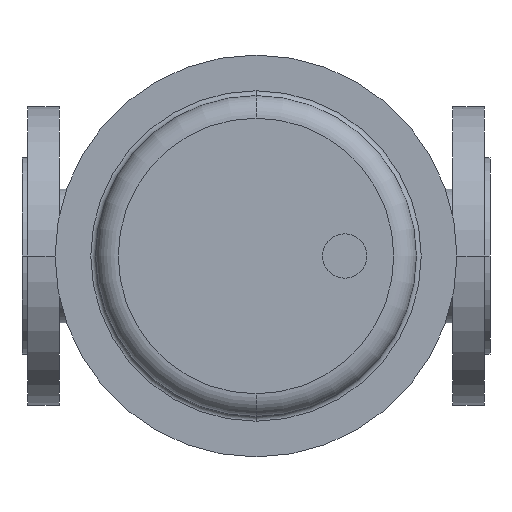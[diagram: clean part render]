
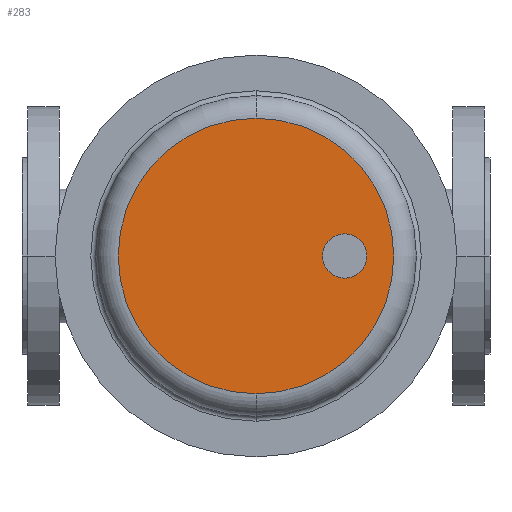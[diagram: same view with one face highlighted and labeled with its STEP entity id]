
A CAD part, front view. The second image highlights one B-rep face of the part: STEP entity #283.
In plain terms, the highlighted planar face has unit normal (0, -1, 0).
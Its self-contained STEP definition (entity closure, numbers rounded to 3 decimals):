
#283 = ADVANCED_FACE( '', ( #652, #653 ), #654, .T. );
#652 = FACE_BOUND( '', #1037, .T. );
#653 = FACE_OUTER_BOUND( '', #1038, .T. );
#654 = PLANE( '', #1039 );
#1037 = EDGE_LOOP( '', ( #2305, #2306 ) );
#1038 = EDGE_LOOP( '', ( #2307, #2308, #2309 ) );
#1039 = AXIS2_PLACEMENT_3D( '', #2310, #2311, #2312 );
#2305 = ORIENTED_EDGE( '', *, *, #2802, .T. );
#2306 = ORIENTED_EDGE( '', *, *, #2804, .T. );
#2307 = ORIENTED_EDGE( '', *, *, #2796, .F. );
#2308 = ORIENTED_EDGE( '', *, *, #2795, .F. );
#2309 = ORIENTED_EDGE( '', *, *, #2805, .F. );
#2310 = CARTESIAN_POINT( '', ( 187.688, -498., 0. ) );
#2311 = DIRECTION( '', ( 0., -1., 0. ) );
#2312 = DIRECTION( '', ( -1., 0., 0. ) );
#2795 = EDGE_CURVE( '', #3460, #3463, #3464, .T. );
#2796 = EDGE_CURVE( '', #3463, #3465, #3466, .T. );
#2802 = EDGE_CURVE( '', #3470, #3474, #3476, .T. );
#2804 = EDGE_CURVE( '', #3474, #3470, #3478, .T. );
#2805 = EDGE_CURVE( '', #3465, #3460, #3479, .T. );
#3460 = VERTEX_POINT( '', #4799 );
#3463 = VERTEX_POINT( '', #4802 );
#3464 = CIRCLE( '', #4803, 85.375 );
#3465 = VERTEX_POINT( '', #4804 );
#3466 = CIRCLE( '', #4805, 85.375 );
#3470 = VERTEX_POINT( '', #4809 );
#3474 = VERTEX_POINT( '', #4814 );
#3476 = CIRCLE( '', #4817, 13.75 );
#3478 = CIRCLE( '', #4819, 13.75 );
#3479 = CIRCLE( '', #4820, 85.375 );
#4799 = CARTESIAN_POINT( '', ( 145., -498., 85.375 ) );
#4802 = CARTESIAN_POINT( '', ( 230.375, -498., 0. ) );
#4803 = AXIS2_PLACEMENT_3D( '', #5713, #5714, #5715 );
#4804 = CARTESIAN_POINT( '', ( 145., -498., -85.375 ) );
#4805 = AXIS2_PLACEMENT_3D( '', #5716, #5717, #5718 );
#4809 = CARTESIAN_POINT( '', ( 213.75, -498., 0. ) );
#4814 = CARTESIAN_POINT( '', ( 186.25, -498., 0. ) );
#4817 = AXIS2_PLACEMENT_3D( '', #5730, #5731, #5732 );
#4819 = AXIS2_PLACEMENT_3D( '', #5736, #5737, #5738 );
#4820 = AXIS2_PLACEMENT_3D( '', #5739, #5740, #5741 );
#5713 = CARTESIAN_POINT( '', ( 145., -498., 0. ) );
#5714 = DIRECTION( '', ( 0., 1., 0. ) );
#5715 = DIRECTION( '', ( 1., 0., 0. ) );
#5716 = CARTESIAN_POINT( '', ( 145., -498., 0. ) );
#5717 = DIRECTION( '', ( 0., 1., 0. ) );
#5718 = DIRECTION( '', ( 1., 0., 0. ) );
#5730 = CARTESIAN_POINT( '', ( 200., -498., 0. ) );
#5731 = DIRECTION( '', ( 0., 1., 0. ) );
#5732 = DIRECTION( '', ( 1., 0., 0. ) );
#5736 = CARTESIAN_POINT( '', ( 200., -498., 0. ) );
#5737 = DIRECTION( '', ( 0., 1., 0. ) );
#5738 = DIRECTION( '', ( 1., 0., 0. ) );
#5739 = CARTESIAN_POINT( '', ( 145., -498., 0. ) );
#5740 = DIRECTION( '', ( 0., 1., 0. ) );
#5741 = DIRECTION( '', ( 1., 0., 0. ) );
